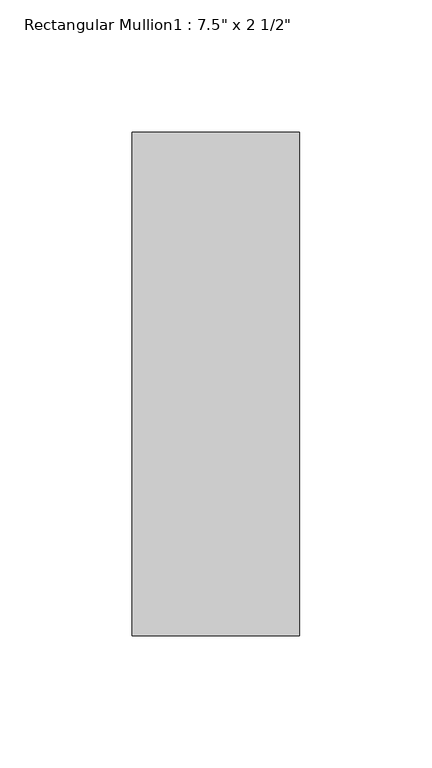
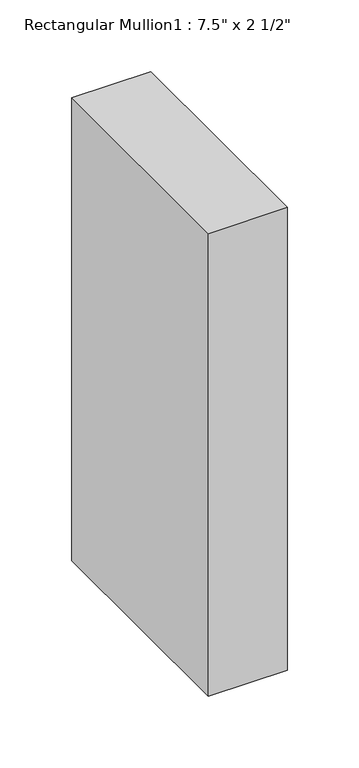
"""IFC4 building model written with IfcOpenShell, lengths in millimetres: member geometry."""

from ifc_helpers import new_model, si_unit, frame, origin, place, context, project, spatial, polyline, outline, extrude, source, transform, mapped, element, save


def member_b39d4331(model_context):
    return source(origin(), model_context, "Body", "SweptSolid", [
        extrude(outline(polyline([(-63.5, -165.1), (-63.5, 25.4), (0.0, 25.4), (0.0, -165.1), (-63.5, -165.1)])), frame((0.0, 0.0, -393.7), z_axis=(0.0, 0.0, 1.0), x_axis=(1.0, 0.0, 0.0)), (0.0, 0.0, 1.0), 393.7),
    ])


if __name__ == "__main__":
    model = new_model("IFC4")
    model_context = context("Model", 3, world=origin())
    ifc_project = project(units=[si_unit("LENGTHUNIT", "METRE", prefix="MILLI")], contexts=[model_context])
    site = spatial("IfcSite", under=ifc_project)
    building = spatial("IfcBuilding", under=site)
    placement = place(None, origin())
    member_shape = member_b39d4331(model_context)
    element("IfcMember", 1, ObjectType="Rectangular Mullion1 : 7.5\" x 2 1/2\"", at=placement, inside=building, context=model_context, shape_type="MappedRepresentation", body=[
        mapped(member_shape, transform((0.0, 0.0, 0.0), x_axis=(1.0, 0.0, 0.0), y_axis=(0.0, 1.0, 0.0), z_axis=(0.0, 0.0, 1.0))),
    ])
    save(model, "model.ifc")
